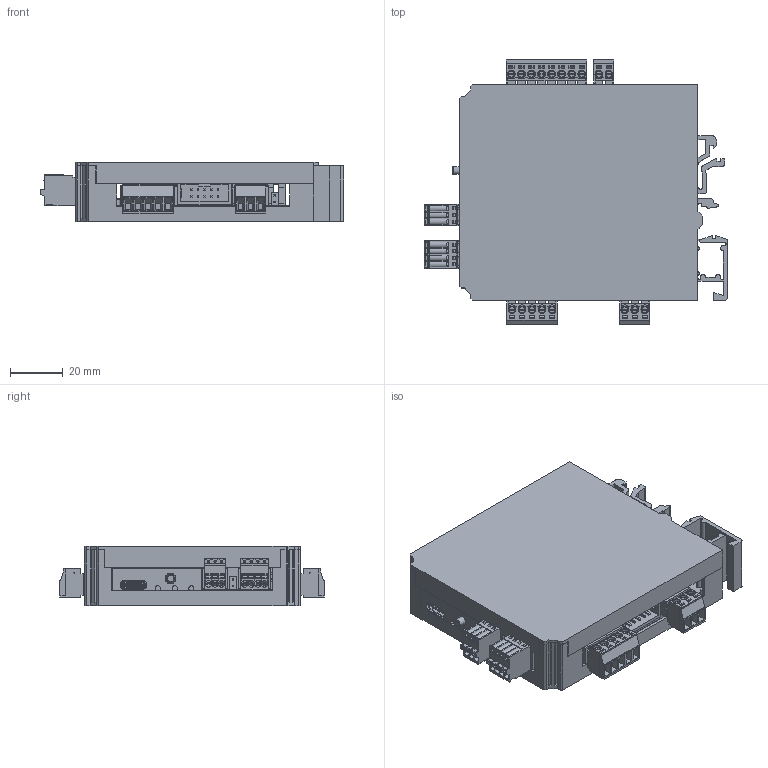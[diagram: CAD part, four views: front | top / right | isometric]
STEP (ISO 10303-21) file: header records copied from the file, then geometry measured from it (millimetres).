
FILE_DESCRIPTION(('FreeCAD Model'),'2;1');
FILE_NAME('Open CASCADE Shape Model','2025-07-15T08:06:05',(''),(''), 'Open CASCADE STEP processor 7.6','FreeCAD','Unknown');
FILE_SCHEMA(('AUTOMOTIVE_DESIGN { 1 0 10303 214 1 1 1 1 }'));
Length unit declared in the file: millimetre
Products named in the file (44): PLCino_mit_Geh__use; CVB225; CVB001; CVB002; CVB004; USB Cover; PLCino PCB Simplified; Connectors; WE 691381000003; 6913810000xx_Levier; 6913810000xx; 6913810000xx_LAME; 691381000003; 691381000003_BAS; WE 691381000004; 691381000004; 691381000004_BAS; 6913810000xx_Levier003; 6913810000xx003; 6913810000xx_LAME003; WE 691361300005; 6913613000xx_PIN; 6913613000xx_VISSE; 6913613000xx_CAGE; 691361300005; 691361300005_CAPOT; WE 691361300003; 6913613000xx_PIN005; 6913613000xx_VISSE005; 6913613000xx_CAGE005; 691361300003; 691361300003_CAPOT; WE 691361300002; 691361300002; 691361300002_CAPOT; 6913613000xx_PIN008; 6913613000xx_VISSE008; 6913613000xx_CAGE008; WE 691361300008; 6913613000xx_PIN010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
Assembly tree (100 placements, depth 4):
  PLCino_mit_Geh__use
    CVB225
      CVB001
      CVB002
      CVB004
    USB Cover
    PLCino PCB Simplified
    Connectors
      WE 691381000003
        6913810000xx_Levier  x3
        6913810000xx  x3
        6913810000xx_LAME  x3
        691381000003
        691381000003_BAS
      WE 691381000004
        691381000004
        691381000004_BAS
        6913810000xx_Levier003  x4
        6913810000xx003  x4
        6913810000xx_LAME003  x4
      WE 691361300005
        6913613000xx_PIN  x5
        6913613000xx_VISSE  x5
        6913613000xx_CAGE  x5
        691361300005
        691361300005_CAPOT
      WE 691361300003
        6913613000xx_PIN005  x3
        6913613000xx_VISSE005  x3
        6913613000xx_CAGE005  x3
        691361300003
        691361300003_CAPOT
      WE 691361300002
        691361300002
        691361300002_CAPOT
        6913613000xx_PIN008  x2
        6913613000xx_VISSE008  x2
        6913613000xx_CAGE008  x2
      WE 691361300008
        6913613000xx_PIN010  x8
        6913613000xx_VISSE010  x8
        6913613000xx_CAGE010  x8
        691361300008
        691361300008_CAPOT
Bounding box: 115.09 x 100.5 x 22.5 mm (x, y, z)
Volume: 55322.6 mm3; surface area: 100364.5 mm2
Topology: 122 solids, 123 shells, 8212 faces, 22608 edges, 14703 vertices
Faces by surface type: plane 6553, cylinder 1489, torus 74, cone 67, bspline 17, revolution 8, sphere 4
Full cylindrical faces by diameter (mm): 0.25 x2, 0.5 x2, 0.65 x2, 0.99 x2, 0.991 x3, 1 x23, 1.3 x9, 1.35 x18, 1.4 x7, 1.8 x7, 1.9 x36, 2 x21, 2.9 x36, 3.2 x1, 3.3 x1, 3.5 x1, 4 x1, 5 x1
Entity records: 209779 total; most frequent: CARTESIAN_POINT 37449, ORIENTED_EDGE 36006, DIRECTION 33019, EDGE_CURVE 18003, LINE 15573, VECTOR 15573, VERTEX_POINT 11756, AXIS2_PLACEMENT_3D 8719
